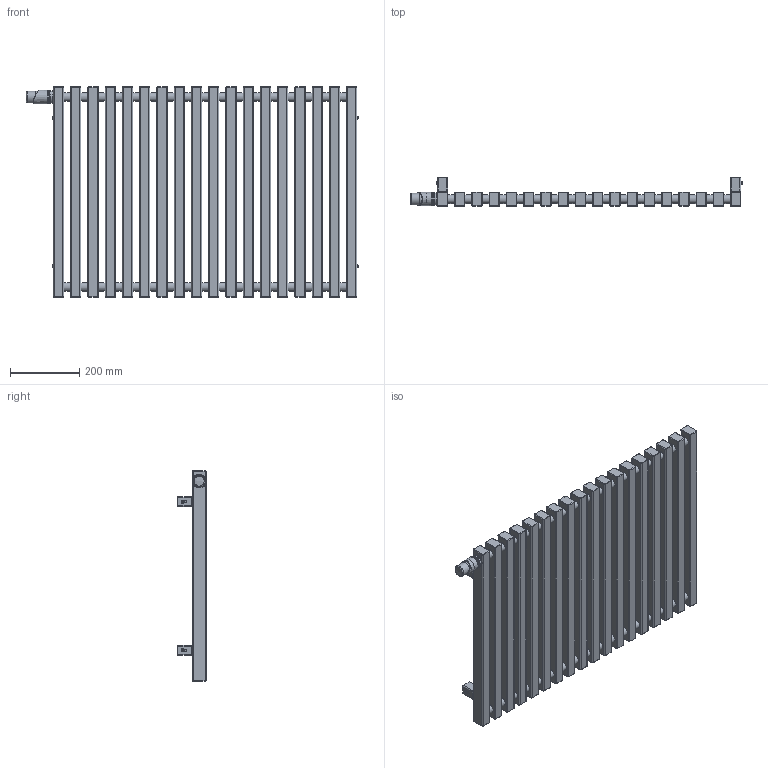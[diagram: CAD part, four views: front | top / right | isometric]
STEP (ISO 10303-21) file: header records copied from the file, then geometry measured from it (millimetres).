
FILE_DESCRIPTION((''),'2;1');
FILE_NAME('Z:\R\G\P\RGP029 - Grzejnik Triga ( ZET)\Work\Inventor\Triga v1.1\Marketing\AutoCad 3D\G-TR-XX-MK-XX-61-88-VL.stp','2012-07-26T13:34:07',('DawPi'),(''),'Autodesk Inventor 2012','Autodesk Inventor 2012','');
FILE_SCHEMA(('AUTOMOTIVE_DESIGN { 1 0 10303 214 1 1 1 1 }'));
Length unit declared in the file: millimetre
Products named in the file (4): G-TR-XX-MK-XX-61-88-VL; MMT42; A40300A
Assembly tree (6 placements, depth 2):
  G-TR-XX-MK-XX-61-88-VL
    G-TR-XX-MK-XX-61-88-VL
    MMT42  x4
    A40300A
Bounding box: 962.26 x 82 x 610 mm (x, y, z)
Volume: 13638799.4 mm3; surface area: 1594157.5 mm2
Topology: 6 solids, 7 shells, 769 faces, 1702 edges, 1023 vertices
Faces by surface type: cylinder 329, plane 255, bspline 145, cone 25, torus 14, sphere 1
Full cylindrical faces by diameter (mm): 4 x1, 4.134 x4, 4.509 x4, 5 x1, 10 x5, 11.445 x1, 12 x4, 18.631 x2, 25 x34, 26.211 x1, 28 x1, 30 x1, 31 x1, 33.8 x1, 34 x2, 35 x3, 36 x4, 38 x3
Entity records: 28108 total; most frequent: CARTESIAN_POINT 14378, DIRECTION 3038, ORIENTED_EDGE 2580, EDGE_CURVE 1290, AXIS2_PLACEMENT_3D 1253, EDGE_LOOP 816, VERTEX_POINT 808, CIRCLE 752
